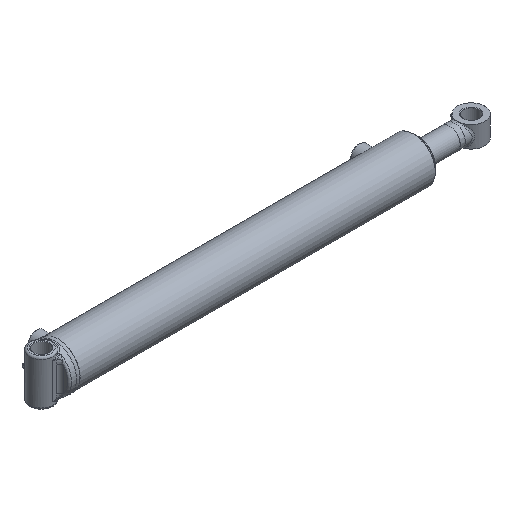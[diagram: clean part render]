
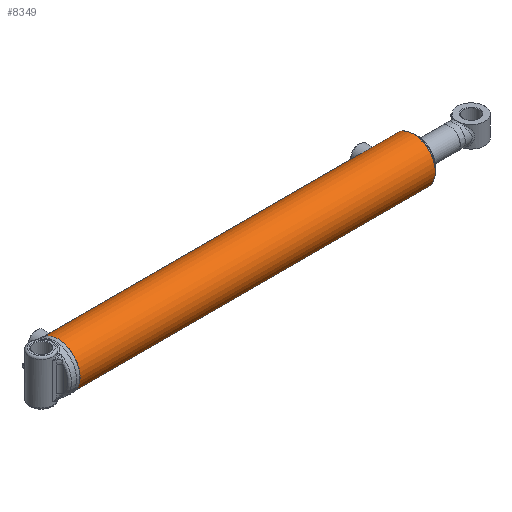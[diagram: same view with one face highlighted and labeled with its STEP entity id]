
A CAD part, isometric view. The second image highlights one B-rep face of the part: STEP entity #8349.
In plain terms, the highlighted cylindrical face has radius 36.513 mm (diameter 73.025 mm), a full revolution.
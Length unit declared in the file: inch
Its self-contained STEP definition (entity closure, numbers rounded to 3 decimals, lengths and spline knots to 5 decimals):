
#803=B_SPLINE_CURVE_WITH_KNOTS('',3,(#12229,#12230,#12231,#12232,#12233,
#12234,#12235,#12236,#12237,#12238),.UNSPECIFIED.,.F.,.F.,(4,2,2,2,4),(0.,
0.17962,0.35924,0.53885,0.71847),
 .UNSPECIFIED.);
#804=B_SPLINE_CURVE_WITH_KNOTS('',3,(#12239,#12240,#12241,#12242,#12243,
#12244,#12245,#12246,#12247,#12248,#12249,#12250,#12251,#12252,#12253,#12254,
#12255,#12256,#12257,#12258,#12259,#12260,#12261,#12262,#12263,#12264),
 .UNSPECIFIED.,.F.,.F.,(4,2,2,2,2,2,2,2,2,2,2,2,4),(0.71847,0.89808,
1.0777,1.25732,1.43694,1.61655,1.79617,
1.97579,2.1554,2.33502,2.51464,2.69425,
2.87387),.UNSPECIFIED.);
#805=B_SPLINE_CURVE_WITH_KNOTS('',3,(#12269,#12270,#12271,#12272,#12273,
#12274,#12275,#12276,#12277,#12278),.UNSPECIFIED.,.F.,.F.,(4,2,2,2,4),(0.,
0.17962,0.35924,0.53885,0.71847),
 .UNSPECIFIED.);
#806=B_SPLINE_CURVE_WITH_KNOTS('',3,(#12279,#12280,#12281,#12282,#12283,
#12284,#12285,#12286,#12287,#12288,#12289,#12290,#12291,#12292,#12293,#12294,
#12295,#12296,#12297,#12298,#12299,#12300,#12301,#12302,#12303,#12304),
 .UNSPECIFIED.,.F.,.F.,(4,2,2,2,2,2,2,2,2,2,2,2,4),(0.71847,0.89808,
1.0777,1.25732,1.43694,1.61655,1.79617,
1.97579,2.1554,2.33502,2.51464,2.69425,
2.87387),.UNSPECIFIED.);
#1153=FACE_BOUND('',#2720,.T.);
#1154=FACE_BOUND('',#2721,.T.);
#1432=LINE('',#12332,#1775);
#1775=VECTOR('',#10077,1.4375);
#2115=CYLINDRICAL_SURFACE('',#9120,1.4375);
#2205=FACE_OUTER_BOUND('',#2719,.T.);
#2719=EDGE_LOOP('',(#5884,#5885,#5886,#5887,#5888,#5889));
#2720=EDGE_LOOP('',(#5890,#5891));
#2721=EDGE_LOOP('',(#5892,#5893));
#3318=CIRCLE('',#9117,1.4375);
#3320=CIRCLE('',#9119,1.4375);
#3321=CIRCLE('',#9121,1.4375);
#3322=CIRCLE('',#9122,1.4375);
#3791=VERTEX_POINT('',#12226);
#3792=VERTEX_POINT('',#12228);
#3793=VERTEX_POINT('',#12266);
#3794=VERTEX_POINT('',#12268);
#3801=VERTEX_POINT('',#12325);
#3802=VERTEX_POINT('',#12326);
#3803=VERTEX_POINT('',#12331);
#3804=VERTEX_POINT('',#12333);
#4597=EDGE_CURVE('',#3792,#3791,#803,.T.);
#4598=EDGE_CURVE('',#3791,#3792,#804,.T.);
#4600=EDGE_CURVE('',#3794,#3793,#805,.T.);
#4601=EDGE_CURVE('',#3793,#3794,#806,.T.);
#4611=EDGE_CURVE('',#3801,#3802,#3318,.T.);
#4613=EDGE_CURVE('',#3802,#3801,#3320,.T.);
#4614=EDGE_CURVE('',#3801,#3803,#1432,.T.);
#4615=EDGE_CURVE('',#3804,#3803,#3321,.T.);
#4616=EDGE_CURVE('',#3803,#3804,#3322,.T.);
#5884=ORIENTED_EDGE('',*,*,#4611,.F.);
#5885=ORIENTED_EDGE('',*,*,#4614,.T.);
#5886=ORIENTED_EDGE('',*,*,#4615,.F.);
#5887=ORIENTED_EDGE('',*,*,#4616,.F.);
#5888=ORIENTED_EDGE('',*,*,#4614,.F.);
#5889=ORIENTED_EDGE('',*,*,#4613,.F.);
#5890=ORIENTED_EDGE('',*,*,#4597,.T.);
#5891=ORIENTED_EDGE('',*,*,#4598,.T.);
#5892=ORIENTED_EDGE('',*,*,#4600,.T.);
#5893=ORIENTED_EDGE('',*,*,#4601,.T.);
#8349=ADVANCED_FACE('',(#2205,#1153,#1154),#2115,.T.);
#9117=AXIS2_PLACEMENT_3D('',#12327,#10069,#10070);
#9119=AXIS2_PLACEMENT_3D('',#12329,#10073,#10074);
#9120=AXIS2_PLACEMENT_3D('',#12330,#10075,#10076);
#9121=AXIS2_PLACEMENT_3D('',#12334,#10078,#10079);
#9122=AXIS2_PLACEMENT_3D('',#12335,#10080,#10081);
#10069=DIRECTION('center_axis',(1.,0.,0.));
#10070=DIRECTION('ref_axis',(0.,-1.,0.));
#10073=DIRECTION('center_axis',(1.,0.,0.));
#10074=DIRECTION('ref_axis',(0.,-1.,0.));
#10075=DIRECTION('center_axis',(1.,0.,0.));
#10076=DIRECTION('ref_axis',(0.,-1.,0.));
#10077=DIRECTION('',(-1.,0.,0.));
#10078=DIRECTION('center_axis',(-1.,0.,0.));
#10079=DIRECTION('ref_axis',(0.,-1.,0.));
#10080=DIRECTION('center_axis',(-1.,0.,0.));
#10081=DIRECTION('ref_axis',(0.,-1.,0.));
#12226=CARTESIAN_POINT('',(0.5925,0.,1.4375));
#12228=CARTESIAN_POINT('',(0.78,-0.1875,1.42522));
#12229=CARTESIAN_POINT('Ctrl Pts',(0.78,-0.1875,1.42522));
#12230=CARTESIAN_POINT('Ctrl Pts',(0.75643,-0.1875,1.42522));
#12231=CARTESIAN_POINT('Ctrl Pts',(0.7313,-0.18278,
1.42586));
#12232=CARTESIAN_POINT('Ctrl Pts',(0.68512,-0.16364,
1.42819));
#12233=CARTESIAN_POINT('Ctrl Pts',(0.66405,-0.14921,
1.42983));
#12234=CARTESIAN_POINT('Ctrl Pts',(0.63079,-0.11595,
1.43291));
#12235=CARTESIAN_POINT('Ctrl Pts',(0.61636,-0.09488,
1.43455));
#12236=CARTESIAN_POINT('Ctrl Pts',(0.59722,-0.0487,
1.43686));
#12237=CARTESIAN_POINT('Ctrl Pts',(0.5925,-0.02357,1.4375));
#12238=CARTESIAN_POINT('Ctrl Pts',(0.5925,0.,1.4375));
#12239=CARTESIAN_POINT('Ctrl Pts',(0.5925,0.,1.4375));
#12240=CARTESIAN_POINT('Ctrl Pts',(0.5925,0.02357,1.4375));
#12241=CARTESIAN_POINT('Ctrl Pts',(0.59722,0.0487,
1.43686));
#12242=CARTESIAN_POINT('Ctrl Pts',(0.61636,0.09488,
1.43455));
#12243=CARTESIAN_POINT('Ctrl Pts',(0.63079,0.11595,
1.43291));
#12244=CARTESIAN_POINT('Ctrl Pts',(0.66405,0.14921,
1.42983));
#12245=CARTESIAN_POINT('Ctrl Pts',(0.68512,0.16364,
1.42819));
#12246=CARTESIAN_POINT('Ctrl Pts',(0.7313,0.18278,
1.42586));
#12247=CARTESIAN_POINT('Ctrl Pts',(0.75643,0.1875,1.42522));
#12248=CARTESIAN_POINT('Ctrl Pts',(0.80357,0.1875,1.42522));
#12249=CARTESIAN_POINT('Ctrl Pts',(0.8287,0.18278,
1.42586));
#12250=CARTESIAN_POINT('Ctrl Pts',(0.87488,0.16364,
1.42819));
#12251=CARTESIAN_POINT('Ctrl Pts',(0.89595,0.14921,
1.42983));
#12252=CARTESIAN_POINT('Ctrl Pts',(0.92921,0.11595,
1.43291));
#12253=CARTESIAN_POINT('Ctrl Pts',(0.94364,0.09488,
1.43455));
#12254=CARTESIAN_POINT('Ctrl Pts',(0.96278,0.0487,
1.43686));
#12255=CARTESIAN_POINT('Ctrl Pts',(0.9675,0.02357,1.4375));
#12256=CARTESIAN_POINT('Ctrl Pts',(0.9675,-0.02357,1.4375));
#12257=CARTESIAN_POINT('Ctrl Pts',(0.96278,-0.0487,
1.43686));
#12258=CARTESIAN_POINT('Ctrl Pts',(0.94364,-0.09488,
1.43455));
#12259=CARTESIAN_POINT('Ctrl Pts',(0.92921,-0.11595,
1.43291));
#12260=CARTESIAN_POINT('Ctrl Pts',(0.89595,-0.14921,
1.42983));
#12261=CARTESIAN_POINT('Ctrl Pts',(0.87488,-0.16364,
1.42819));
#12262=CARTESIAN_POINT('Ctrl Pts',(0.8287,-0.18278,
1.42586));
#12263=CARTESIAN_POINT('Ctrl Pts',(0.80357,-0.1875,1.42522));
#12264=CARTESIAN_POINT('Ctrl Pts',(0.78,-0.1875,1.42522));
#12266=CARTESIAN_POINT('',(21.6095,0.,1.4375));
#12268=CARTESIAN_POINT('',(21.797,-0.1875,1.42522));
#12269=CARTESIAN_POINT('Ctrl Pts',(21.797,-0.1875,1.42522));
#12270=CARTESIAN_POINT('Ctrl Pts',(21.77343,-0.1875,
1.42522));
#12271=CARTESIAN_POINT('Ctrl Pts',(21.7483,-0.18278,
1.42586));
#12272=CARTESIAN_POINT('Ctrl Pts',(21.70212,-0.16364,
1.42819));
#12273=CARTESIAN_POINT('Ctrl Pts',(21.68105,-0.14921,
1.42983));
#12274=CARTESIAN_POINT('Ctrl Pts',(21.64779,-0.11595,1.43291));
#12275=CARTESIAN_POINT('Ctrl Pts',(21.63336,-0.09488,1.43455));
#12276=CARTESIAN_POINT('Ctrl Pts',(21.61422,-0.0487,
1.43686));
#12277=CARTESIAN_POINT('Ctrl Pts',(21.6095,-0.02357,1.4375));
#12278=CARTESIAN_POINT('Ctrl Pts',(21.6095,0.,1.4375));
#12279=CARTESIAN_POINT('Ctrl Pts',(21.6095,0.,1.4375));
#12280=CARTESIAN_POINT('Ctrl Pts',(21.6095,0.02357,1.4375));
#12281=CARTESIAN_POINT('Ctrl Pts',(21.61422,0.0487,1.43686));
#12282=CARTESIAN_POINT('Ctrl Pts',(21.63336,0.09488,
1.43455));
#12283=CARTESIAN_POINT('Ctrl Pts',(21.64779,0.11595,1.43291));
#12284=CARTESIAN_POINT('Ctrl Pts',(21.68105,0.14921,1.42983));
#12285=CARTESIAN_POINT('Ctrl Pts',(21.70212,0.16364,1.42819));
#12286=CARTESIAN_POINT('Ctrl Pts',(21.7483,0.18278,1.42586));
#12287=CARTESIAN_POINT('Ctrl Pts',(21.77343,0.1875,1.42522));
#12288=CARTESIAN_POINT('Ctrl Pts',(21.82057,0.1875,1.42522));
#12289=CARTESIAN_POINT('Ctrl Pts',(21.8457,0.18278,1.42586));
#12290=CARTESIAN_POINT('Ctrl Pts',(21.89188,0.16364,1.42819));
#12291=CARTESIAN_POINT('Ctrl Pts',(21.91295,0.14921,1.42983));
#12292=CARTESIAN_POINT('Ctrl Pts',(21.94621,0.11595,1.43291));
#12293=CARTESIAN_POINT('Ctrl Pts',(21.96064,0.09488,
1.43455));
#12294=CARTESIAN_POINT('Ctrl Pts',(21.97978,0.0487,1.43686));
#12295=CARTESIAN_POINT('Ctrl Pts',(21.9845,0.02357,1.4375));
#12296=CARTESIAN_POINT('Ctrl Pts',(21.9845,-0.02357,1.4375));
#12297=CARTESIAN_POINT('Ctrl Pts',(21.97978,-0.0487,
1.43686));
#12298=CARTESIAN_POINT('Ctrl Pts',(21.96064,-0.09488,
1.43455));
#12299=CARTESIAN_POINT('Ctrl Pts',(21.94621,-0.11595,1.43291));
#12300=CARTESIAN_POINT('Ctrl Pts',(21.91295,-0.14921,
1.42983));
#12301=CARTESIAN_POINT('Ctrl Pts',(21.89188,-0.16364,
1.42819));
#12302=CARTESIAN_POINT('Ctrl Pts',(21.8457,-0.18278,
1.42586));
#12303=CARTESIAN_POINT('Ctrl Pts',(21.82057,-0.1875,
1.42522));
#12304=CARTESIAN_POINT('Ctrl Pts',(21.797,-0.1875,1.42522));
#12325=CARTESIAN_POINT('',(23.227,1.4375,0.));
#12326=CARTESIAN_POINT('',(23.227,0.,-1.4375));
#12327=CARTESIAN_POINT('Origin',(23.227,0.,0.));
#12329=CARTESIAN_POINT('Origin',(23.227,0.,0.));
#12330=CARTESIAN_POINT('Origin',(0.,0.,0.));
#12331=CARTESIAN_POINT('',(0.09382,1.4375,0.));
#12332=CARTESIAN_POINT('',(0.,1.4375,0.));
#12333=CARTESIAN_POINT('',(0.09382,0.,1.4375));
#12334=CARTESIAN_POINT('Origin',(0.09382,0.,0.));
#12335=CARTESIAN_POINT('Origin',(0.09382,0.,0.));
